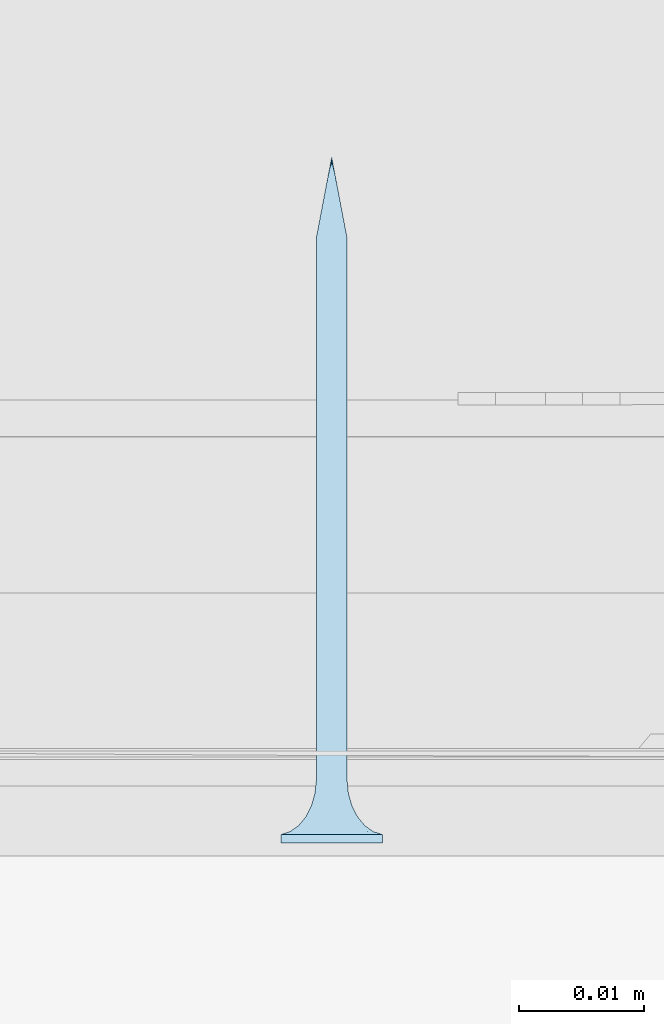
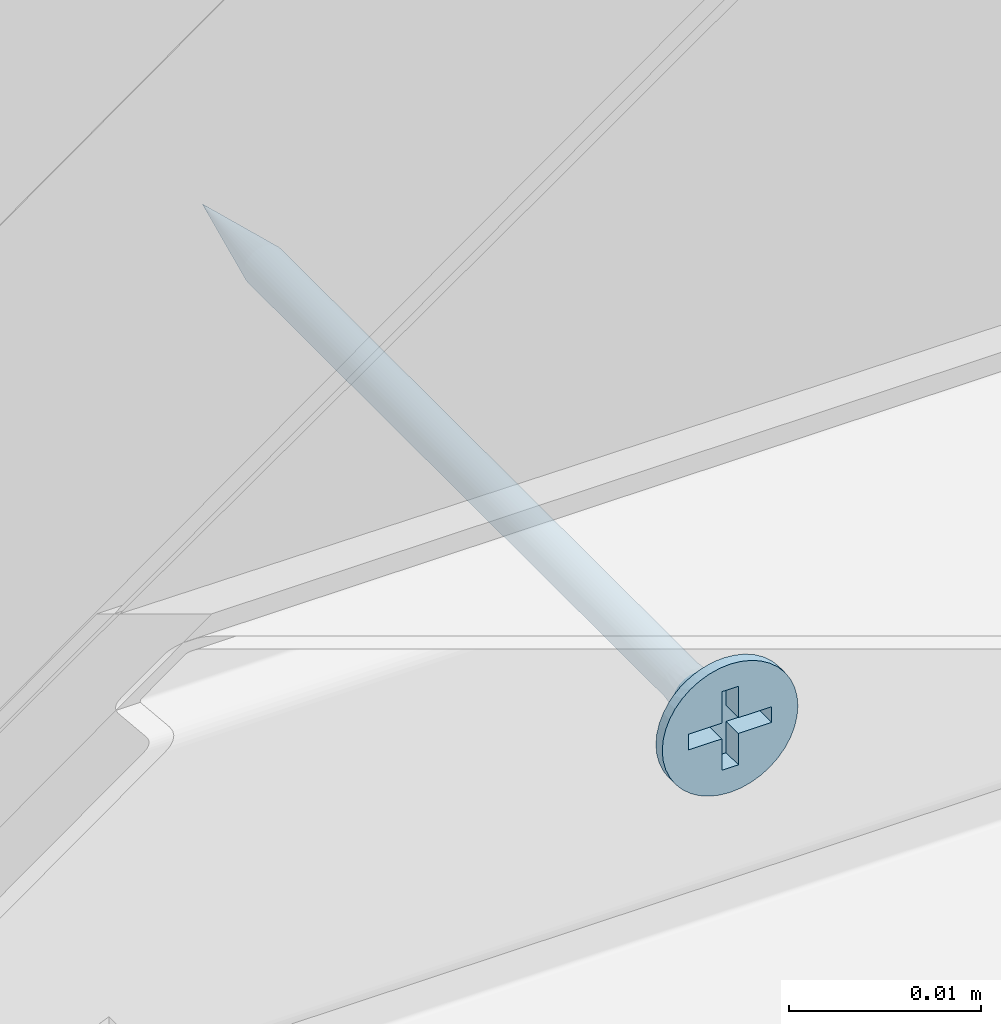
# One storey, part 26 of 62: 1 slab.
"""IFC2X3 building model written with IfcOpenShell, lengths in millimetres."""

from ifc_helpers import new_model, entity, si_unit, converted_unit, direction, frame, origin, origin_with_axes, place, context, project, spatial, faceted_brep, element, save


model = new_model("IFC2X3")

# Units and contexts
model_context = context("Model", 3, precision=1e-05, world=origin(), true_north=direction((0.0, 1.0, 0.0)))
ifc_project = project(units=[si_unit("LENGTHUNIT", "METRE", prefix="MILLI"), si_unit("AREAUNIT", "SQUARE_METRE"), si_unit("VOLUMEUNIT", "CUBIC_METRE"), converted_unit("PLANEANGLEUNIT", "DEGREE", entity("IfcPlaneAngleMeasure", 0.01745), si_unit("PLANEANGLEUNIT", "RADIAN"), dimensions=[0, 0, 0, 0, 0, 0, 0]), si_unit("SOLIDANGLEUNIT", "STERADIAN"), si_unit("MASSUNIT", "GRAM"), si_unit("TIMEUNIT", "SECOND"), si_unit("THERMODYNAMICTEMPERATUREUNIT", "DEGREE_CELSIUS"), si_unit("LUMINOUSINTENSITYUNIT", "LUMEN")], contexts=[model_context])

# Site, building, storey
site_placement = place(None, origin_with_axes())
site = spatial("IfcSite", under=ifc_project, at=site_placement, Name="Default Site", CompositionType="ELEMENT")
building_placement = place(site_placement, origin_with_axes())
building = spatial("IfcBuilding", under=site, at=building_placement, Name="Default Building", CompositionType="ELEMENT")
storey_placement = place(building_placement, origin_with_axes())
storey = spatial("IfcBuildingStorey", under=building, at=storey_placement, Name="Default Building Storey", CompositionType="ELEMENT", Elevation=0.0)

# Slab
slab_placement = place(storey_placement, frame((2969.361511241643, 6771.88979115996, 1881.158939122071), z_axis=(0.0, 0.0, -1.0), x_axis=(1.0, 4.718447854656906e-16, 0.0)))
element("IfcSlab", 1, at=slab_placement, inside=storey, Name="Wkręt RIGIPS TN 55", context=model_context, shape_type="Brep", body=[
    faceted_brep([(-136.9005263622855, 4828.206294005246, 554.7035091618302), (-136.7358758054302, 4828.206294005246, 554.8044071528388), (-136.7358758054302, 4784.726408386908, 554.8044071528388), (-136.9005263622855, 4784.726408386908, 554.7035091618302), (-138.629605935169, 4828.206294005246, 556.1802826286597), (-138.629605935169, 4784.726408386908, 556.1802826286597), (-138.5557071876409, 4784.726408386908, 556.3586899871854), (-138.5557071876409, 4828.206294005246, 556.3586899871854), (-138.3293964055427, 4784.726408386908, 556.6701800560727), (-138.182556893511, 4784.726408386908, 556.7955928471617), (-138.182556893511, 4828.206294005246, 556.7955928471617), (-138.3293964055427, 4828.206294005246, 556.6701800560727), (-138.629605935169, 4828.206294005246, 555.4197173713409), (-138.629605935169, 4784.726408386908, 555.4197173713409), (-138.6746858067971, 4784.726408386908, 555.60748855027), (-138.6746858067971, 4828.206294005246, 555.60748855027), (-138.3293964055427, 4828.206294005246, 554.9298199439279), (-138.182556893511, 4828.206294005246, 554.8044071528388), (-138.182556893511, 4784.726408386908, 554.8044071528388), (-138.3293964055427, 4784.726408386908, 554.9298199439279), (-136.2888267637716, 4828.206294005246, 555.4197173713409), (-136.2888267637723, 4784.726408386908, 555.4197173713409), (-136.3627255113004, 4784.726408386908, 555.2413100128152), (-136.3627255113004, 4828.206294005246, 555.2413100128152), (-136.3627255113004, 4828.206294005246, 556.3586899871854), (-136.3627255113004, 4784.726408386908, 556.3586899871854), (-136.2888267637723, 4784.726408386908, 556.1802826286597), (-136.2888267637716, 4828.206294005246, 556.1802826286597), (-136.2437468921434, 4828.206294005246, 555.9925114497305), (-136.2437468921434, 4784.726408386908, 555.9925114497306), (-136.2285959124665, 4784.726408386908, 555.8000000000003), (-136.2285959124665, 4828.206294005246, 555.8000000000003), (-138.4548091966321, 4784.726408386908, 556.5233405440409), (-138.4548091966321, 4828.206294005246, 556.5233405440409), (-136.7358758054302, 4784.726408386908, 556.7955928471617), (-136.5890362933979, 4784.726408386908, 556.6701800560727), (-136.5890362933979, 4828.206294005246, 556.6701800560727), (-136.7358758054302, 4828.206294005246, 556.7955928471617), (-136.4636235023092, 4784.726408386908, 556.5233405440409), (-136.4636235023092, 4828.206294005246, 556.5233405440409), (-137.0789337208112, 4784.726408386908, 556.9703895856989), (-136.9005263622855, 4784.726408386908, 556.8964908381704), (-136.9005263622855, 4828.206294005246, 556.8964908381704), (-137.0789337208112, 4828.206294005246, 556.9703895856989), (-138.6746858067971, 4828.206294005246, 555.9925114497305), (-138.6746858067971, 4784.726408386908, 555.9925114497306), (-138.0179063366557, 4784.726408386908, 556.8964908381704), (-138.0179063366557, 4828.206294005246, 556.8964908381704), (-137.0789337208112, 4828.206294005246, 554.6296104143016), (-137.0789337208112, 4784.726408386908, 554.6296104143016), (-138.0179063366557, 4828.206294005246, 554.7035091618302), (-137.83949897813, 4828.206294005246, 554.6296104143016), (-137.83949897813, 4784.726408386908, 554.6296104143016), (-138.0179063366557, 4784.726408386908, 554.7035091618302), (-138.5557071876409, 4828.206294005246, 555.2413100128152), (-138.5557071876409, 4784.726408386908, 555.2413100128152), (-138.4548091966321, 4828.206294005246, 555.0766594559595), (-138.4548091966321, 4784.726408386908, 555.0766594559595), (-137.2667048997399, 4784.726408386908, 557.0154694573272), (-137.2667048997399, 4828.206294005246, 557.0154694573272), (-137.4592163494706, 4784.726408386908, 557.0306204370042), (-137.4592163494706, 4828.206294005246, 557.0306204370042), (-137.83949897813, 4784.726408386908, 556.9703895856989), (-137.83949897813, 4828.206294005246, 556.9703895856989), (-136.2437468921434, 4828.206294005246, 555.60748855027), (-136.2437468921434, 4784.726408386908, 555.60748855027), (-137.6517277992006, 4828.206294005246, 554.5845305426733), (-137.6517277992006, 4784.726408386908, 554.5845305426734), (-137.4592163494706, 4828.206294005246, 554.5693795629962), (-137.4592163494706, 4784.726408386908, 554.5693795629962), (-137.2667048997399, 4828.206294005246, 554.5845305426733), (-137.2667048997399, 4784.726408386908, 554.5845305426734), (-136.5890362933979, 4828.206294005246, 554.9298199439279), (-136.5890362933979, 4784.726408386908, 554.9298199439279), (-136.4636235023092, 4784.726408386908, 555.0766594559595), (-136.4636235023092, 4828.206294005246, 555.0766594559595), (-138.6898367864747, 4828.206294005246, 555.8000000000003), (-138.6898367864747, 4784.726408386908, 555.8000000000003), (-137.6517277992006, 4784.726408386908, 557.0154694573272), (-137.6517277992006, 4828.206294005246, 557.0154694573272), (-141.5377463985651, 4832.59805152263, 555.8000000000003), (-141.5377463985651, 4833.259713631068, 555.8000000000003), (-141.4875329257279, 4833.259713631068, 555.1619773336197), (-141.4875329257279, 4832.59805152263, 555.1619773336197), (-141.3381289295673, 4833.259713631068, 554.5396649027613), (-141.3381289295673, 4832.59805152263, 554.5396649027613), (-141.0932132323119, 4833.259713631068, 553.9483861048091), (-141.0932132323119, 4832.59805152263, 553.9483861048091), (-140.7588164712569, 4833.259713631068, 553.4027001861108), (-140.7588164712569, 4832.59805152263, 553.4027001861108), (-140.3431726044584, 4833.259713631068, 552.9160437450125), (-140.4541727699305, 4832.59805152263, 553.0314907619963), (-140.1080097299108, 4832.59805152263, 552.6986614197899), (-139.8565161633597, 4833.259713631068, 552.500399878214), (-139.7251262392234, 4832.59805152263, 552.4088262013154), (-139.3108302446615, 4833.259713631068, 552.1660031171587), (-139.3108302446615, 4832.59805152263, 552.1660031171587), (-138.8708651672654, 4832.59805152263, 551.9735584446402), (-138.7195514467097, 4833.259713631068, 551.9210874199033), (-138.4113302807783, 4832.59805152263, 551.8341600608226), (-137.9385961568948, 4832.59805152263, 551.7497404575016), (-138.0972390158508, 4833.259713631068, 551.7716834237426), (-137.4592163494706, 4833.259713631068, 551.7214699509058), (-137.4592163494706, 4832.59805152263, 551.7214699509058), (-136.8211936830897, 4833.259713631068, 551.7716834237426), (-136.8211936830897, 4832.59805152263, 551.7716834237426), (-136.1988812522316, 4833.259713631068, 551.9210874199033), (-136.1988812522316, 4832.59805152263, 551.9210874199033), (-135.6076024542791, 4833.259713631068, 552.1660031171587), (-135.6076024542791, 4832.59805152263, 552.1660031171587), (-135.0619165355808, 4833.259713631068, 552.500399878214), (-135.0619165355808, 4832.59805152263, 552.500399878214), (-134.5752600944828, 4833.259713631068, 552.9160437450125), (-134.5752600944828, 4832.59805152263, 552.9160437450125), (-134.1596162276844, 4833.259713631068, 553.4027001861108), (-134.1596162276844, 4832.59805152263, 553.4027001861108), (-133.8252194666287, 4833.259713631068, 553.9483861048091), (-133.8252194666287, 4832.59805152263, 553.9483861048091), (-133.5803037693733, 4833.259713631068, 554.5396649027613), (-133.5803037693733, 4832.59805152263, 554.5396649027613), (-133.4308997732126, 4833.259713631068, 556.4380226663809), (-133.4308997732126, 4832.59805152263, 556.4380226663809), (-133.3806863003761, 4832.59805152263, 555.8000000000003), (-133.3806863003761, 4833.259713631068, 555.8000000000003), (-133.4308997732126, 4832.59805152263, 555.1619773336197), (-133.4308997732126, 4833.259713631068, 555.1619773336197), (-133.5803037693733, 4833.259713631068, 557.0603350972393), (-133.5803037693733, 4832.59805152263, 557.0603350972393), (-133.8252194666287, 4833.259713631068, 557.6516138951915), (-133.8252194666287, 4832.59805152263, 557.6516138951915), (-134.1596162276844, 4833.259713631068, 558.1972998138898), (-134.1596162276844, 4832.59805152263, 558.1972998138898), (-134.5752600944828, 4833.259713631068, 558.6839562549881), (-134.5752600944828, 4832.59805152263, 558.6839562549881), (-135.0619165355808, 4833.259713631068, 559.0996001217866), (-135.0619165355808, 4832.59805152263, 559.0996001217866), (-135.6076024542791, 4833.259713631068, 559.4339968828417), (-135.6076024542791, 4832.59805152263, 559.4339968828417), (-136.1988812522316, 4833.259713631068, 559.6789125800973), (-136.1988812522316, 4832.59805152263, 559.6789125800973), (-136.8211936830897, 4833.259713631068, 559.8283165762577), (-136.8211936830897, 4832.59805152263, 559.8283165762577), (-137.4592163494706, 4833.259713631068, 559.8785300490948), (-137.4592163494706, 4832.59805152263, 559.8785300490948), (-138.0972390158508, 4833.259713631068, 559.8283165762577), (-138.0972390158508, 4832.59805152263, 559.8283165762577), (-138.7195514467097, 4833.259713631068, 559.6789125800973), (-138.7195514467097, 4832.59805152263, 559.6789125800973), (-139.3108302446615, 4833.259713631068, 559.4339968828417), (-139.3108302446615, 4832.59805152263, 559.4339968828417), (-139.8565161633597, 4833.259713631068, 559.0996001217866), (-139.8565161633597, 4832.59805152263, 559.0996001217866), (-140.3431726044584, 4833.259713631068, 558.6839562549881), (-140.3431726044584, 4832.59805152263, 558.6839562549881), (-140.7588164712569, 4833.259713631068, 558.1972998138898), (-140.7588164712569, 4832.59805152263, 558.1972998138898), (-141.0932132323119, 4833.259713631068, 557.6516138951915), (-141.0932132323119, 4832.59805152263, 557.6516138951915), (-141.3381289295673, 4833.259713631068, 557.0603350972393), (-141.3381289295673, 4832.59805152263, 557.0603350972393), (-141.4875329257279, 4833.259713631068, 556.4380226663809), (-141.4875329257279, 4832.59805152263, 556.4380226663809), (-137.8060615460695, 4829.281368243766, 554.5055560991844), (-137.4592163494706, 4829.281368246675, 554.4598930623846), (-138.1292698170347, 4829.281368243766, 554.6394333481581), (-138.4068150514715, 4829.281368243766, 554.8524012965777), (-138.6197830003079, 4829.281368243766, 555.1299465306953), (-138.7536602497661, 4829.281368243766, 555.4531548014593), (-138.7993232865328, 4829.281368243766, 555.7999999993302), (-138.7536602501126, 4829.281368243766, 556.1468451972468), (-138.6197830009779, 4829.281368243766, 556.4700534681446), (-138.4068150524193, 4829.281368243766, 556.7475987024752), (-138.1292698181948, 4829.281368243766, 556.9605666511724), (-137.8060615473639, 4829.281368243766, 557.0944439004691), (-137.4592163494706, 4829.281368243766, 557.1401069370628), (-137.1123711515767, 4829.281368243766, 557.0944439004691), (-136.7891628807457, 4829.281368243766, 556.9605666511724), (-136.5116176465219, 4829.281368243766, 556.7475987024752), (-136.2986496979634, 4829.281368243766, 556.4700534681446), (-136.1647724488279, 4829.281368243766, 556.1468451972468), (-136.1191094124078, 4829.281368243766, 555.7999999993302), (-136.1647724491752, 4829.281368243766, 555.4531548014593), (-136.2986496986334, 4829.281368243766, 555.1299465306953), (-136.5116176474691, 4829.281368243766, 554.8524012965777), (-136.7891628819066, 4829.281368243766, 554.6394333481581), (-137.112371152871, 4829.281368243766, 554.5055560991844), (-137.4592163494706, 4830.288222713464, 554.1737111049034), (-137.8801308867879, 4830.288222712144, 554.229125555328), (-138.2723607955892, 4830.288222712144, 554.3915925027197), (-138.6091762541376, 4830.288222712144, 554.6500400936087), (-138.8676238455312, 4830.288222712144, 554.9868555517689), (-139.0300907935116, 4830.288222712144, 555.3790854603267), (-139.0855052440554, 4830.288222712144, 555.7999999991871), (-139.0300907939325, 4830.288222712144, 556.220914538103), (-138.8676238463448, 4830.288222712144, 556.6131444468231), (-138.6091762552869, 4830.288222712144, 556.9499599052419), (-138.2723607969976, 4830.288222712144, 557.2084074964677), (-137.8801308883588, 4830.288222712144, 557.3708744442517), (-137.4592163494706, 4830.288222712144, 557.426288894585), (-137.0383018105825, 4830.288222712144, 557.3708744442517), (-136.6460719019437, 4830.288222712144, 557.2084074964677), (-136.3092564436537, 4830.288222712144, 556.9499599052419), (-136.0508088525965, 4830.288222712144, 556.6131444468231), (-135.8883419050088, 4830.288222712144, 556.220914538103), (-135.8329274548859, 4830.288222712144, 555.7999999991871), (-135.8883419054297, 4830.288222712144, 555.3790854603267), (-136.0508088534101, 4830.288222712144, 554.9868555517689), (-136.3092564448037, 4830.288222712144, 554.6500400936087), (-136.6460719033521, 4830.288222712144, 554.3915925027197), (-137.0383018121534, 4830.288222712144, 554.229125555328), (-137.4592163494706, 4831.168773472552, 553.7273431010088), (-137.9956594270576, 4831.168773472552, 553.7979671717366), (-138.4955447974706, 4831.168773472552, 554.0050264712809), (-138.9248060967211, 4831.168773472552, 554.3344102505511), (-139.2541898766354, 4831.168773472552, 554.763671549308), (-139.4612491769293, 4831.168773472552, 555.2635569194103), (-139.5318732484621, 4831.168773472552, 555.799999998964), (-139.4612491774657, 4831.168773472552, 556.3364430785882), (-139.2541898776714, 4831.168773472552, 556.8363284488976), (-138.9248060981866, 4831.168773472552, 557.2655897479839), (-138.4955447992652, 4831.168773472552, 557.594973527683), (-137.9956594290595, 4831.168773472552, 557.8020328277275), (-137.4592163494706, 4831.168773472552, 557.8726568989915), (-136.9227732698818, 4831.168773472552, 557.8020328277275), (-136.4228878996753, 4831.168773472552, 557.594973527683), (-135.993626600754, 4831.168773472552, 557.2655897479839), (-135.6642428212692, 4831.168773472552, 556.8363284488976), (-135.4571835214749, 4831.168773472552, 556.3364430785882), (-135.3865594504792, 4831.168773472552, 555.799999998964), (-135.4571835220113, 4831.168773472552, 555.2635569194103), (-135.6642428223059, 4831.168773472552, 554.763671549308), (-135.9936266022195, 4831.168773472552, 554.3344102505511), (-136.4228879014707, 4831.168773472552, 554.0050264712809), (-136.9227732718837, 4831.168773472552, 553.7979671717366), (-137.4592163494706, 4831.872222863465, 553.1465393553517), (-138.1459824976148, 4831.872222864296, 553.2369538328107), (-138.7859466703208, 4831.872222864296, 553.5020356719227), (-139.3354963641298, 4831.872222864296, 553.9237199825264), (-139.7571806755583, 4831.872222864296, 554.4732696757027), (-140.02226251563, 4831.872222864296, 555.1132338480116), (-140.1126769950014, 4831.872222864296, 555.7999999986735), (-140.0222625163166, 4831.872222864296, 556.4867661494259), (-139.7571806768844, 4831.872222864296, 557.1267303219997), (-139.335496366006, 4831.872222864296, 557.6762800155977), (-138.7859466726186, 4831.872222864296, 558.097964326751), (-138.1459825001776, 4831.872222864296, 558.363046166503), (-137.4592163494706, 4831.872222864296, 558.4534606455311), (-136.7724501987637, 4831.872222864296, 558.363046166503), (-136.1324860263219, 4831.872222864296, 558.097964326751), (-135.5829363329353, 4831.872222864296, 557.6762800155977), (-135.1612520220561, 4831.872222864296, 557.1267303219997), (-134.8961701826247, 4831.872222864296, 556.4867661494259), (-134.8057557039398, 4831.872222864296, 555.7999999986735), (-134.8961701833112, 4831.872222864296, 555.1132338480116), (-135.161252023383, 4831.872222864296, 554.4732696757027), (-135.5829363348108, 4831.872222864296, 553.9237199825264), (-136.1324860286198, 4831.872222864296, 553.5020356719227), (-136.7724502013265, 4831.872222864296, 553.2369538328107), (-137.4592163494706, 4832.35798993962, 552.4648055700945), (-138.3224281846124, 4832.357989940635, 552.578449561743), (-139.1268135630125, 4832.357989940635, 552.9116368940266), (-139.8175549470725, 4832.357989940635, 553.4416613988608), (-140.3475794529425, 4832.357989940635, 554.1324027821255), (-140.6807667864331, 4832.357989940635, 554.936788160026), (-140.7944107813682, 4832.357989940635, 555.7999999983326), (-140.6807667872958, 4832.357989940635, 556.663211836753), (-140.3475794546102, 4832.357989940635, 557.4675972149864), (-139.817554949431, 4832.357989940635, 558.1583385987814), (-139.1268135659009, 4832.357989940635, 558.6883631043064), (-138.3224281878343, 4832.357989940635, 559.0215504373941), (-137.4592163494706, 4832.357989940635, 559.1351944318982), (-136.5960045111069, 4832.357989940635, 559.0215504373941), (-135.7916191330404, 4832.357989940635, 558.6883631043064), (-135.1008777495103, 4832.357989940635, 558.1583385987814), (-134.5708532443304, 4832.357989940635, 557.4675972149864), (-134.2376659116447, 4832.357989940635, 556.663211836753), (-134.1240219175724, 4832.357989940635, 555.7999999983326), (-134.2376659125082, 4832.357989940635, 554.936788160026), (-134.570853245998, 4832.357989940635, 554.1324027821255), (-135.1008777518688, 4832.357989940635, 553.4416613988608), (-135.7916191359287, 4832.357989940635, 552.9116368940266), (-136.5960045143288, 4832.357989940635, 552.578449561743), (-137.4592163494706, 4778.259713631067, 555.8000000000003), (-139.9592163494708, 4833.259713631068, 556.3000000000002), (-137.9592163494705, 4833.259713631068, 556.3000000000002), (-139.9592163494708, 4833.259713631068, 555.3000000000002), (-137.9592163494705, 4833.259713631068, 555.3000000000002), (-137.9592163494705, 4833.259713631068, 553.3000000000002), (-136.9592163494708, 4833.259713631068, 553.3000000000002), (-136.9592163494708, 4833.259713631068, 555.3000000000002), (-134.9592163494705, 4833.259713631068, 555.3000000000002), (-134.9592163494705, 4833.259713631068, 556.3000000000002), (-136.9592163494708, 4833.259713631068, 556.3000000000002), (-136.9592163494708, 4833.259713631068, 558.3000000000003), (-137.9592163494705, 4833.259713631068, 558.3000000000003), (-136.9592163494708, 4831.988379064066, 556.3000000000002), (-134.9592163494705, 4831.988379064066, 556.3000000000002), (-134.9592163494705, 4831.988379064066, 555.3000000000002), (-136.9592163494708, 4831.988379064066, 555.3000000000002), (-136.9592163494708, 4831.988379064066, 553.3000000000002), (-137.9592163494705, 4831.988379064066, 553.3000000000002), (-137.9592163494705, 4831.988379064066, 555.3000000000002), (-139.9592163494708, 4831.988379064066, 555.3000000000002), (-139.9592163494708, 4831.988379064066, 556.3000000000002), (-137.9592163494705, 4831.988379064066, 556.3000000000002), (-137.9592163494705, 4831.988379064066, 558.3000000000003), (-136.9592163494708, 4831.988379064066, 558.3000000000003)], [[[0, 1, 2, 3]], [[4, 5, 6, 7]], [[8, 9, 10, 11]], [[12, 13, 14, 15]], [[16, 17, 18, 19]], [[20, 21, 22, 23]], [[24, 25, 26, 27]], [[28, 29, 30, 31]], [[7, 6, 32, 33]], [[34, 35, 36, 37]], [[36, 35, 38, 39]], [[40, 41, 42, 43]], [[44, 45, 5, 4]], [[9, 46, 47, 10]], [[41, 34, 37, 42]], [[48, 0, 3, 49]], [[33, 32, 8, 11]], [[50, 51, 52, 53]], [[54, 55, 13, 12]], [[56, 57, 55, 54]], [[58, 40, 43, 59]], [[60, 58, 59, 61]], [[16, 19, 57, 56]], [[17, 50, 53, 18]], [[39, 38, 25, 24]], [[46, 62, 63, 47]], [[64, 65, 21, 20]], [[51, 66, 67, 52]], [[66, 68, 69, 67]], [[68, 70, 71, 69]], [[1, 72, 73, 2]], [[23, 22, 74, 75]], [[27, 26, 29, 28]], [[76, 77, 45, 44]], [[75, 74, 73, 72]], [[31, 30, 65, 64]], [[78, 60, 61, 79]], [[62, 78, 79, 63]], [[70, 48, 49, 71]], [[15, 14, 77, 76]], [[80, 81, 82, 83]], [[84, 85, 83, 82]], [[86, 87, 85, 84]], [[87, 86, 88, 89]], [[88, 90, 89]], [[90, 91, 89]], [[92, 91, 93]], [[91, 90, 93]], [[93, 94, 92]], [[93, 95, 94]], [[95, 96, 94]], [[97, 96, 98]], [[96, 95, 98]], [[98, 99, 97]], [[100, 99, 101]], [[99, 98, 101]], [[101, 102, 100]], [[102, 103, 100]], [[103, 102, 104, 105]], [[106, 107, 105, 104]], [[108, 109, 107, 106]], [[109, 108, 110, 111]], [[112, 113, 111, 110]], [[113, 112, 114, 115]], [[116, 117, 115, 114]], [[118, 119, 117, 116]], [[120, 121, 122, 123]], [[123, 122, 124, 125]], [[119, 118, 125, 124]], [[126, 127, 121, 120]], [[128, 129, 127, 126]], [[129, 128, 130, 131]], [[132, 133, 131, 130]], [[133, 132, 134, 135]], [[136, 137, 135, 134]], [[138, 139, 137, 136]], [[139, 138, 140, 141]], [[142, 143, 141, 140]], [[143, 142, 144, 145]], [[146, 147, 145, 144]], [[148, 149, 147, 146]], [[149, 148, 150, 151]], [[152, 153, 151, 150]], [[153, 152, 154, 155]], [[156, 157, 155, 154]], [[158, 159, 157, 156]], [[159, 158, 160, 161]], [[81, 80, 161, 160]], [[162, 68, 66]], [[162, 163, 68]], [[66, 51, 162]], [[162, 51, 164]], [[50, 164, 51]], [[164, 50, 17]], [[17, 165, 164]], [[17, 16, 165]], [[166, 16, 56]], [[166, 165, 16]], [[56, 54, 166]], [[166, 54, 167]], [[12, 167, 54]], [[167, 12, 15]], [[15, 168, 167]], [[15, 76, 168]], [[169, 76, 44]], [[169, 168, 76]], [[44, 4, 169]], [[169, 4, 170]], [[7, 170, 4]], [[170, 7, 33]], [[33, 171, 170]], [[33, 11, 171]], [[172, 11, 10]], [[172, 171, 11]], [[10, 47, 172]], [[172, 47, 173]], [[63, 173, 47]], [[173, 63, 79]], [[79, 174, 173]], [[79, 61, 174]], [[175, 61, 59]], [[175, 174, 61]], [[59, 43, 175]], [[175, 43, 176]], [[42, 176, 43]], [[176, 42, 37]], [[37, 177, 176]], [[37, 36, 177]], [[178, 36, 39]], [[178, 177, 36]], [[39, 24, 178]], [[178, 24, 179]], [[27, 179, 24]], [[179, 27, 28]], [[28, 180, 179]], [[28, 31, 180]], [[181, 31, 64]], [[181, 180, 31]], [[64, 20, 181]], [[181, 20, 182]], [[23, 182, 20]], [[182, 23, 75]], [[75, 183, 182]], [[75, 72, 183]], [[184, 72, 1]], [[184, 183, 72]], [[1, 0, 184]], [[184, 0, 185]], [[48, 185, 0]], [[185, 48, 70]], [[70, 163, 185]], [[70, 68, 163]], [[186, 163, 187]], [[162, 187, 163]], [[164, 188, 187, 162]], [[165, 189, 188, 164]], [[166, 190, 189, 165]], [[167, 191, 190, 166]], [[168, 192, 191, 167]], [[169, 193, 192, 168]], [[170, 194, 193, 169]], [[171, 195, 194, 170]], [[172, 196, 195, 171]], [[173, 197, 196, 172]], [[174, 198, 197, 173]], [[175, 199, 198, 174]], [[176, 200, 199, 175]], [[177, 201, 200, 176]], [[178, 202, 201, 177]], [[179, 203, 202, 178]], [[180, 204, 203, 179]], [[181, 205, 204, 180]], [[182, 206, 205, 181]], [[183, 207, 206, 182]], [[184, 208, 207, 183]], [[185, 209, 208, 184]], [[185, 163, 209]], [[186, 209, 163]], [[210, 186, 211]], [[187, 211, 186]], [[188, 212, 211, 187]], [[189, 213, 212, 188]], [[190, 214, 213, 189]], [[191, 215, 214, 190]], [[192, 216, 215, 191]], [[193, 217, 216, 192]], [[194, 218, 217, 193]], [[195, 219, 218, 194]], [[196, 220, 219, 195]], [[197, 221, 220, 196]], [[198, 222, 221, 197]], [[199, 223, 222, 198]], [[200, 224, 223, 199]], [[201, 225, 224, 200]], [[202, 226, 225, 201]], [[203, 227, 226, 202]], [[204, 228, 227, 203]], [[205, 229, 228, 204]], [[206, 230, 229, 205]], [[207, 231, 230, 206]], [[208, 232, 231, 207]], [[209, 233, 232, 208]], [[209, 186, 233]], [[210, 233, 186]], [[234, 210, 235]], [[211, 235, 210]], [[212, 236, 235, 211]], [[213, 237, 236, 212]], [[214, 238, 237, 213]], [[215, 239, 238, 214]], [[216, 240, 239, 215]], [[217, 241, 240, 216]], [[218, 242, 241, 217]], [[219, 243, 242, 218]], [[220, 244, 243, 219]], [[221, 245, 244, 220]], [[222, 246, 245, 221]], [[223, 247, 246, 222]], [[224, 248, 247, 223]], [[225, 249, 248, 224]], [[226, 250, 249, 225]], [[227, 251, 250, 226]], [[228, 252, 251, 227]], [[229, 253, 252, 228]], [[230, 254, 253, 229]], [[231, 255, 254, 230]], [[232, 256, 255, 231]], [[233, 257, 256, 232]], [[233, 210, 257]], [[234, 257, 210]], [[258, 99, 100]], [[258, 259, 99]], [[100, 103, 258]], [[258, 234, 259]], [[235, 259, 234]], [[259, 96, 97]], [[259, 260, 96]], [[97, 99, 259]], [[236, 260, 259, 235]], [[261, 91, 92]], [[260, 92, 94]], [[260, 261, 92]], [[94, 96, 260]], [[237, 261, 260, 236]], [[262, 87, 89]], [[89, 261, 262]], [[89, 91, 261]], [[238, 262, 261, 237]], [[85, 87, 263]], [[262, 263, 87]], [[239, 263, 262, 238]], [[263, 80, 83]], [[263, 264, 80]], [[83, 85, 263]], [[240, 264, 263, 239]], [[265, 159, 161]], [[161, 264, 265]], [[161, 80, 264]], [[241, 265, 264, 240]], [[265, 266, 157, 159]], [[242, 266, 265, 241]], [[266, 153, 155]], [[266, 267, 153]], [[155, 157, 266]], [[243, 267, 266, 242]], [[268, 149, 151]], [[151, 267, 268]], [[151, 153, 267]], [[244, 268, 267, 243]], [[268, 269, 147, 149]], [[245, 269, 268, 244]], [[269, 143, 145]], [[269, 270, 143]], [[145, 147, 269]], [[246, 270, 269, 245]], [[271, 139, 141]], [[141, 270, 271]], [[141, 143, 270]], [[247, 271, 270, 246]], [[271, 272, 137, 139]], [[248, 272, 271, 247]], [[272, 133, 135]], [[272, 273, 133]], [[135, 137, 272]], [[249, 273, 272, 248]], [[274, 129, 131]], [[131, 273, 274]], [[131, 133, 273]], [[250, 274, 273, 249]], [[274, 275, 127, 129]], [[251, 275, 274, 250]], [[275, 122, 121]], [[275, 276, 122]], [[121, 127, 275]], [[252, 276, 275, 251]], [[277, 119, 124]], [[124, 276, 277]], [[124, 122, 276]], [[253, 277, 276, 252]], [[117, 119, 278]], [[277, 278, 119]], [[254, 278, 277, 253]], [[278, 113, 115]], [[278, 279, 113]], [[115, 117, 278]], [[255, 279, 278, 254]], [[280, 109, 111]], [[111, 279, 280]], [[111, 113, 279]], [[256, 280, 279, 255]], [[107, 109, 281]], [[280, 281, 109]], [[257, 281, 280, 256]], [[257, 234, 281]], [[258, 281, 234]], [[281, 103, 105]], [[281, 258, 103]], [[105, 107, 281]], [[14, 13, 282]], [[282, 77, 14]], [[13, 55, 282]], [[57, 19, 282]], [[282, 55, 57]], [[18, 53, 282]], [[282, 19, 18]], [[53, 52, 282]], [[67, 69, 282]], [[282, 52, 67]], [[71, 49, 282]], [[282, 69, 71]], [[49, 3, 282]], [[2, 73, 282]], [[282, 3, 2]], [[74, 22, 282]], [[282, 73, 74]], [[22, 21, 282]], [[65, 30, 282]], [[282, 21, 65]], [[29, 26, 282]], [[282, 30, 29]], [[26, 25, 282]], [[38, 35, 282]], [[282, 25, 38]], [[34, 41, 282]], [[282, 35, 34]], [[41, 40, 282]], [[58, 60, 282]], [[282, 40, 58]], [[78, 62, 282]], [[282, 60, 78]], [[62, 46, 282]], [[9, 8, 282]], [[282, 46, 9]], [[32, 6, 282]], [[282, 8, 32]], [[6, 5, 282]], [[45, 77, 282]], [[282, 5, 45]], [[283, 156, 154, 284]], [[283, 285, 286, 287, 288, 289, 290, 291, 292, 293, 294, 284, 154, 152, 150, 148, 146, 144, 142, 140, 138, 136, 134, 132, 130, 128, 126, 120, 123, 125, 118, 116, 114, 112, 110, 108, 106, 104, 102, 101, 98, 95, 93, 90, 88, 86, 84, 82, 81, 160, 158, 156]], [[295, 296, 297, 298, 299, 300, 301, 302, 303, 304, 305, 306]], [[297, 290, 289, 298]], [[296, 291, 290, 297]], [[295, 292, 291, 296]], [[306, 293, 292, 295]], [[305, 294, 293, 306]], [[304, 284, 294, 305]], [[303, 283, 284, 304]], [[302, 285, 283, 303]], [[301, 286, 285, 302]], [[300, 287, 286, 301]], [[299, 288, 287, 300]], [[298, 289, 288, 299]]]),
])

save(model, "model.ifc")
